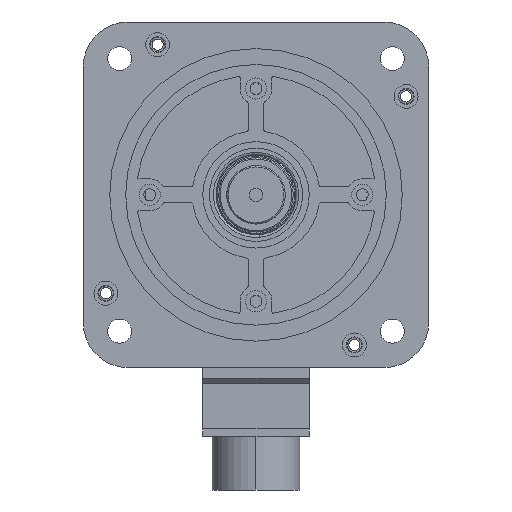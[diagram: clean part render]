
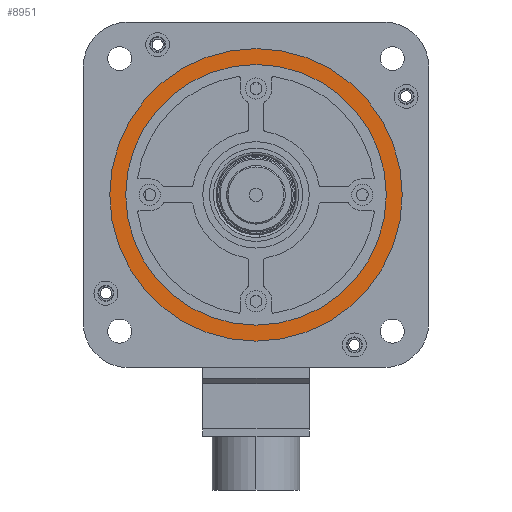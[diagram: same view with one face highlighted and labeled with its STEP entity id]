
A CAD part, left-side view. The second image highlights one B-rep face of the part: STEP entity #8951.
In plain terms, the highlighted planar face has unit normal (-1, 0, 0).
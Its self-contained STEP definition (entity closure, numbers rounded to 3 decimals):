
#2649 = ORIENTED_EDGE ( 'NONE', *, *, #19314, .F. ) ;
#3417 = CARTESIAN_POINT ( 'NONE',  ( -75., 0., -55. ) ) ;
#3650 = EDGE_CURVE ( 'NONE', #14097, #26293, #20578, .T. ) ;
#4573 = VERTEX_POINT ( 'NONE', #22616 ) ;
#4783 = CARTESIAN_POINT ( 'NONE',  ( -75., 0., 0. ) ) ;
#4886 = DIRECTION ( 'NONE',  ( -1., 0., 0. ) ) ;
#5690 = EDGE_CURVE ( 'NONE', #26293, #14097, #6330, .T. ) ;
#6033 = EDGE_CURVE ( 'NONE', #23239, #4573, #9967, .T. ) ;
#6330 = CIRCLE ( 'NONE', #21207, 55. ) ;
#6471 = PLANE ( 'NONE',  #14721 ) ;
#7123 = CARTESIAN_POINT ( 'NONE',  ( -75., 0., 55. ) ) ;
#7956 = DIRECTION ( 'NONE',  ( 0., 0., -1. ) ) ;
#8269 = EDGE_LOOP ( 'NONE', ( #19532, #2649 ) ) ;
#8951 = ADVANCED_FACE ( 'NONE', ( #19598, #13033 ), #6471, .F. ) ;
#9967 = CIRCLE ( 'NONE', #27817, 49. ) ;
#11137 = CARTESIAN_POINT ( 'NONE',  ( -75., 0., 0. ) ) ;
#11452 = DIRECTION ( 'NONE',  ( 0., 0., -1. ) ) ;
#12056 = AXIS2_PLACEMENT_3D ( 'NONE', #4783, #13888, #27549 ) ;
#13033 = FACE_OUTER_BOUND ( 'NONE', #18704, .T. ) ;
#13442 = AXIS2_PLACEMENT_3D ( 'NONE', #20641, #25278, #11452 ) ;
#13565 = CARTESIAN_POINT ( 'NONE',  ( -75., 0., -49. ) ) ;
#13888 = DIRECTION ( 'NONE',  ( -1., 0., 0. ) ) ;
#14097 = VERTEX_POINT ( 'NONE', #3417 ) ;
#14721 = AXIS2_PLACEMENT_3D ( 'NONE', #11137, #18216, #20512 ) ;
#15412 = ORIENTED_EDGE ( 'NONE', *, *, #5690, .T. ) ;
#17365 = CIRCLE ( 'NONE', #13442, 49. ) ;
#18216 = DIRECTION ( 'NONE',  ( 1., 0., 0. ) ) ;
#18358 = CARTESIAN_POINT ( 'NONE',  ( -75., 0., 0. ) ) ;
#18704 = EDGE_LOOP ( 'NONE', ( #21099, #15412 ) ) ;
#19314 = EDGE_CURVE ( 'NONE', #4573, #23239, #17365, .T. ) ;
#19532 = ORIENTED_EDGE ( 'NONE', *, *, #6033, .F. ) ;
#19598 = FACE_BOUND ( 'NONE', #8269, .T. ) ;
#20512 = DIRECTION ( 'NONE',  ( 0., 0., 1. ) ) ;
#20578 = CIRCLE ( 'NONE', #12056, 55. ) ;
#20641 = CARTESIAN_POINT ( 'NONE',  ( -75., 0., 0. ) ) ;
#21064 = DIRECTION ( 'NONE',  ( 0., 0., -1. ) ) ;
#21099 = ORIENTED_EDGE ( 'NONE', *, *, #3650, .T. ) ;
#21207 = AXIS2_PLACEMENT_3D ( 'NONE', #21781, #26533, #7956 ) ;
#21781 = CARTESIAN_POINT ( 'NONE',  ( -75., 0., 0. ) ) ;
#22616 = CARTESIAN_POINT ( 'NONE',  ( -75., 0., 49. ) ) ;
#23239 = VERTEX_POINT ( 'NONE', #13565 ) ;
#25278 = DIRECTION ( 'NONE',  ( -1., 0., 0. ) ) ;
#26293 = VERTEX_POINT ( 'NONE', #7123 ) ;
#26533 = DIRECTION ( 'NONE',  ( -1., 0., 0. ) ) ;
#27549 = DIRECTION ( 'NONE',  ( 0., 0., -1. ) ) ;
#27817 = AXIS2_PLACEMENT_3D ( 'NONE', #18358, #4886, #21064 ) ;
